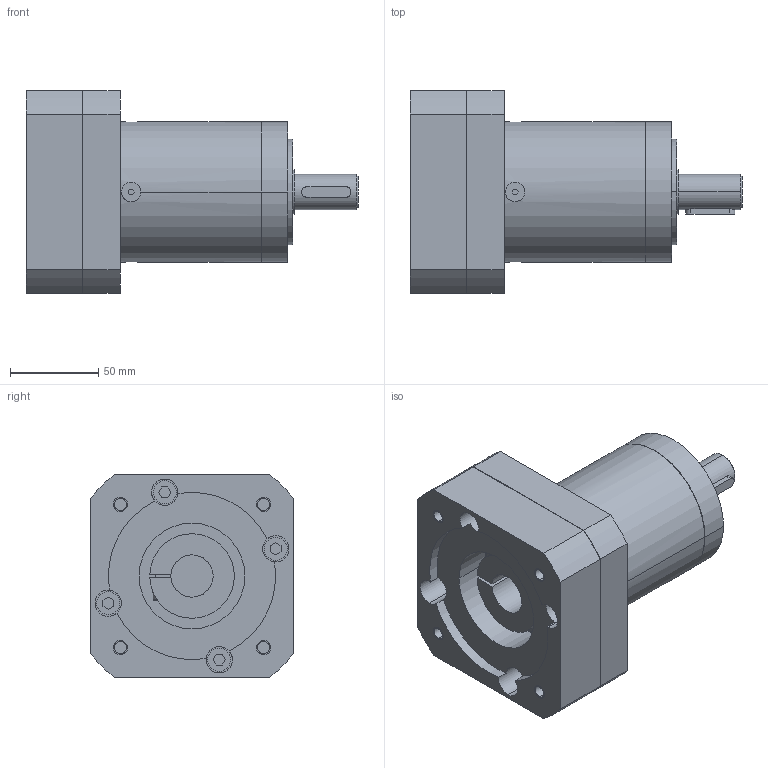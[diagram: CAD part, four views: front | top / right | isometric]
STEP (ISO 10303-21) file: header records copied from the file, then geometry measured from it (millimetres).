
FILE_DESCRIPTION((''),'2;1');
FILE_NAME('MB_PLE_MASTER','2020-02-17T',('agw'),(''),'CREO PARAMETRIC BY PTC INC, 2015290','CREO PARAMETRIC BY PTC INC, 2015290','');
FILE_SCHEMA(('AUTOMOTIVE_DESIGN { 1 0 10303 214 1 1 1 1 }'));
Length unit declared in the file: millimetre
Products named in the file (1): MB_PLE_MASTER
Bounding box: 188.5 x 115 x 115 mm (x, y, z)
Volume: 1051830.2 mm3; surface area: 109369.2 mm2
Topology: 1 solids, 10 shells, 259 faces, 618 edges, 407 vertices
Faces by surface type: plane 134, cylinder 113, cone 6, torus 6
Entity records: 8604 total; most frequent: CARTESIAN_POINT 1488, DIRECTION 1372, ORIENTED_EDGE 1196, EDGE_CURVE 616, AXIS2_PLACEMENT_3D 508, VERTEX_POINT 407, VECTOR 356, LINE 356
